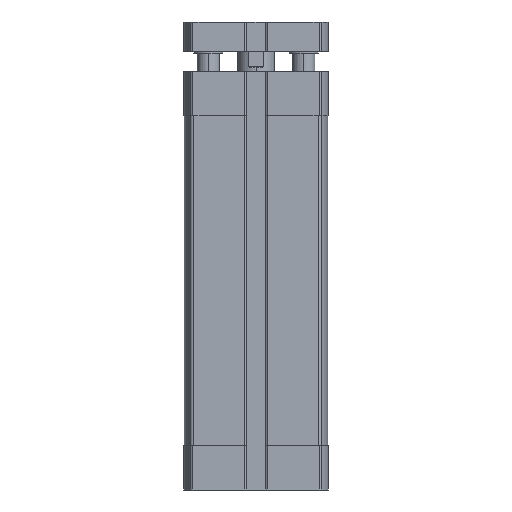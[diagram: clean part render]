
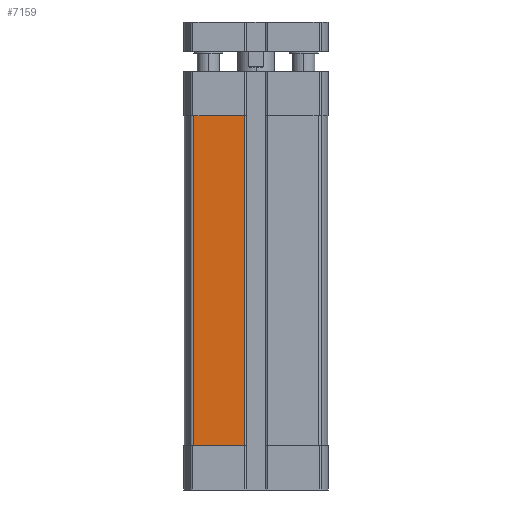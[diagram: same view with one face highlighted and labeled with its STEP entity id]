
A CAD part, front view. The second image highlights one B-rep face of the part: STEP entity #7159.
In plain terms, the highlighted planar face has unit normal (0, -1, 0) as drawn and (-1, 0, 0) by its records, which use the part's own axes.
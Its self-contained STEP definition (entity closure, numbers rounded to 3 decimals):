
#74 = DIRECTION ( 'NONE',  ( 0., 1., 0. ) ) ;
#92 = EDGE_CURVE ( 'NONE', #8693, #8792, #6845, .T. ) ;
#310 = FACE_OUTER_BOUND ( 'NONE', #15545, .T. ) ;
#799 = EDGE_CURVE ( 'NONE', #13108, #8213, #15721, .T. ) ;
#838 = LINE ( 'NONE', #17771, #12319 ) ;
#1074 = EDGE_CURVE ( 'NONE', #8792, #13108, #838, .T. ) ;
#1394 = AXIS2_PLACEMENT_3D ( 'NONE', #17296, #8568, #18740 ) ;
#2202 = ORIENTED_EDGE ( 'NONE', *, *, #799, .T. ) ;
#2388 = CARTESIAN_POINT ( 'NONE',  ( -19.5, 3.1, -12. ) ) ;
#2829 = LINE ( 'NONE', #11446, #14157 ) ;
#2881 = VECTOR ( 'NONE', #5684, 1000. ) ;
#3304 = ORIENTED_EDGE ( 'NONE', *, *, #16052, .T. ) ;
#5684 = DIRECTION ( 'NONE',  ( 0., 0., 1. ) ) ;
#5907 = CARTESIAN_POINT ( 'NONE',  ( -19.5, 3.1, -102. ) ) ;
#6845 = LINE ( 'NONE', #5907, #2881 ) ;
#6995 = DIRECTION ( 'NONE',  ( 0., -1., 0. ) ) ;
#7103 = CARTESIAN_POINT ( 'NONE',  ( -19.5, 3.1, -102. ) ) ;
#7159 = ADVANCED_FACE ( 'NONE', ( #310 ), #14417, .T. ) ;
#8129 = CARTESIAN_POINT ( 'NONE',  ( -19.5, 17.091, -12. ) ) ;
#8213 = VERTEX_POINT ( 'NONE', #16294 ) ;
#8568 = DIRECTION ( 'NONE',  ( -1., 0., 0. ) ) ;
#8693 = VERTEX_POINT ( 'NONE', #7103 ) ;
#8792 = VERTEX_POINT ( 'NONE', #2388 ) ;
#10927 = ORIENTED_EDGE ( 'NONE', *, *, #1074, .T. ) ;
#10952 = VECTOR ( 'NONE', #12884, 1000. ) ;
#11446 = CARTESIAN_POINT ( 'NONE',  ( -19.5, 17.091, -102. ) ) ;
#12319 = VECTOR ( 'NONE', #74, 1000. ) ;
#12884 = DIRECTION ( 'NONE',  ( 0., 0., -1. ) ) ;
#13108 = VERTEX_POINT ( 'NONE', #8129 ) ;
#13608 = CARTESIAN_POINT ( 'NONE',  ( -19.5, 17.091, -102. ) ) ;
#14157 = VECTOR ( 'NONE', #6995, 1000. ) ;
#14417 = PLANE ( 'NONE',  #1394 ) ;
#14670 = ORIENTED_EDGE ( 'NONE', *, *, #92, .T. ) ;
#15545 = EDGE_LOOP ( 'NONE', ( #3304, #14670, #10927, #2202 ) ) ;
#15721 = LINE ( 'NONE', #13608, #10952 ) ;
#16052 = EDGE_CURVE ( 'NONE', #8213, #8693, #2829, .T. ) ;
#16294 = CARTESIAN_POINT ( 'NONE',  ( -19.5, 17.091, -102. ) ) ;
#17296 = CARTESIAN_POINT ( 'NONE',  ( -19.5, 17.091, -102. ) ) ;
#17771 = CARTESIAN_POINT ( 'NONE',  ( -19.5, 0., -12. ) ) ;
#18740 = DIRECTION ( 'NONE',  ( 0., 0., 1. ) ) ;
